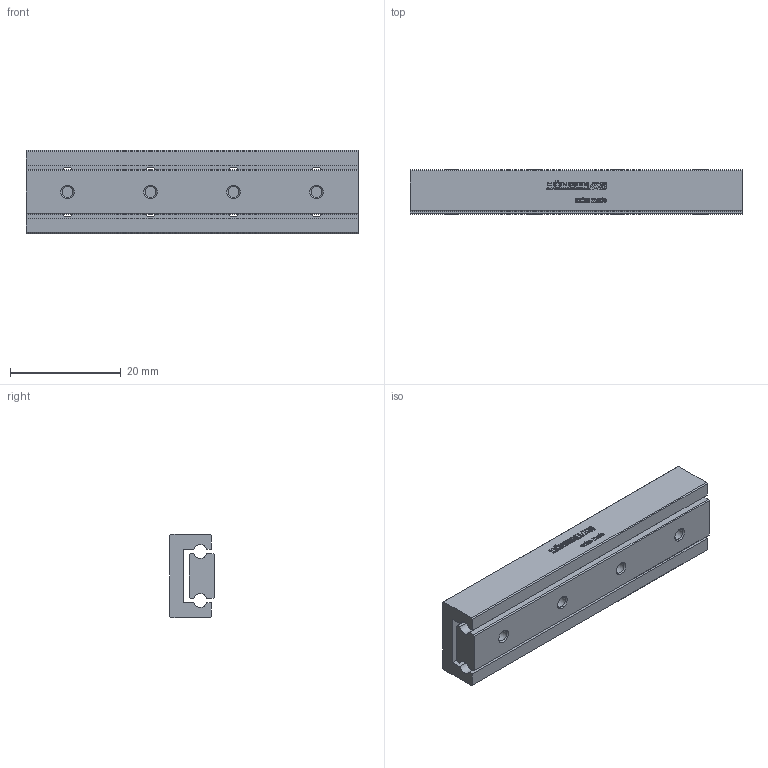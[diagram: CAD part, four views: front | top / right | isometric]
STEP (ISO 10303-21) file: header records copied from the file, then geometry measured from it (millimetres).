
FILE_DESCRIPTION(/* description */ ('STEP AP214'),/* implementation_level */ '2;1');
FILE_NAME(/* name */ 'NDN 2-60.50(0)',/* time_stamp */ '2025-04-16T17:12:49+02:00',/* author */ ('License CC BY-ND 4.0'),/* organization */ ('CADENAS'),/* preprocessor_version */ 'ST-DEVELOPER v19.3',/* originating_system */ 'PARTsolutions',/* authorisation */ ' ');
FILE_SCHEMA (('AUTOMOTIVE_DESIGN {1 0 10303 214 3 1 1}'));
Length unit declared in the file: millimetre
Products named in the file (3): NDN 2-60.50(0); NDN 2-60.50_1; NDN 2-60.50_2
Assembly tree (2 placements, depth 2):
  NDN 2-60.50(0)
    NDN 2-60.50_1
    NDN 2-60.50_2
Bounding box: 60 x 8 x 15 mm (x, y, z)
Volume: 5541.1 mm3; surface area: 5283.4 mm2
Topology: 2 solids, 2 shells, 525 faces, 1466 edges, 972 vertices
Faces by surface type: cylinder 308, plane 201, cone 16
Full cylindrical faces by diameter (mm): 2.013 x12
Entity records: 17087 total; most frequent: DIRECTION 3126, CARTESIAN_POINT 2938, ORIENTED_EDGE 2876, EDGE_CURVE 1438, AXIS2_PLACEMENT_3D 1160, VERTEX_POINT 972, LINE 806, VECTOR 806
